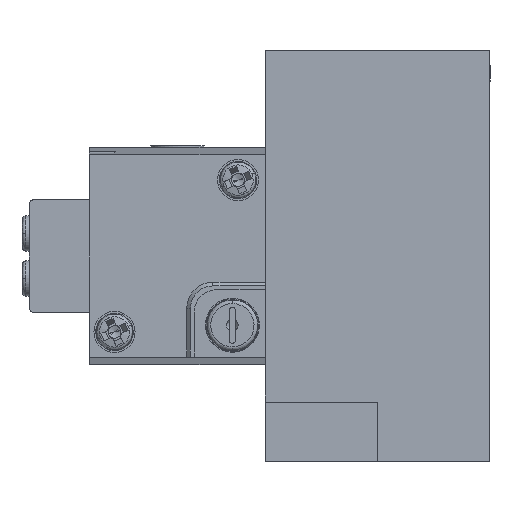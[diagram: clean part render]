
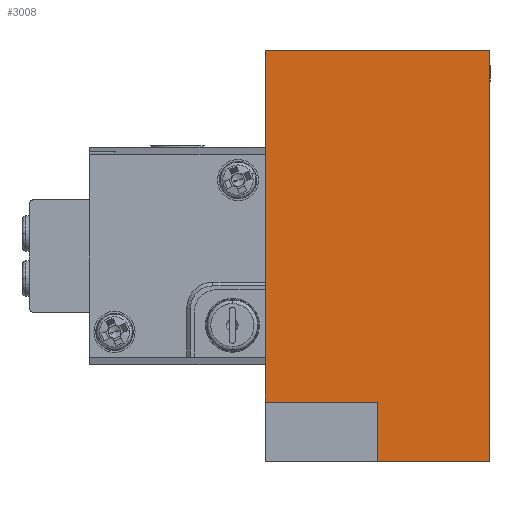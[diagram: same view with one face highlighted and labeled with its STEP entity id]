
A CAD part, left-side view. The second image highlights one B-rep face of the part: STEP entity #3008.
In plain terms, the highlighted planar face has unit normal (-1, 0, 0).
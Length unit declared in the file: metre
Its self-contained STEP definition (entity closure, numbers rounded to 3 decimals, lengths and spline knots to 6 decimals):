
#370 = VERTEX_POINT ( 'NONE', #3337 ) ;
#437 = CARTESIAN_POINT ( 'NONE',  ( -0.034, 0.015, 0.0275 ) ) ;
#989 = DIRECTION ( 'NONE',  ( 0., 1., 0. ) ) ;
#2501 = ORIENTED_EDGE ( 'NONE', *, *, #7770, .T. ) ;
#2509 = CARTESIAN_POINT ( 'NONE',  ( -0.034, 0., 0. ) ) ;
#2549 = DIRECTION ( 'NONE',  ( 0., 0., 1. ) ) ;
#2587 = CARTESIAN_POINT ( 'NONE',  ( -0.034, -0.015, 0.0275 ) ) ;
#2591 = VECTOR ( 'NONE', #989, 1. ) ;
#2835 = PLANE ( 'NONE',  #5398 ) ;
#2917 = CARTESIAN_POINT ( 'NONE',  ( -0.034, -0.015, 0.0275 ) ) ;
#3002 = DIRECTION ( 'NONE',  ( 1., 0., 0. ) ) ;
#3008 = ADVANCED_FACE ( 'NONE', ( #8273 ), #2835, .F. ) ;
#3028 = DIRECTION ( 'NONE',  ( 0., 0., -1. ) ) ;
#3223 = ORIENTED_EDGE ( 'NONE', *, *, #10858, .T. ) ;
#3337 = CARTESIAN_POINT ( 'NONE',  ( -0.034, 0., -0.0195 ) ) ;
#3467 = ORIENTED_EDGE ( 'NONE', *, *, #3519, .F. ) ;
#3519 = EDGE_CURVE ( 'NONE', #6032, #6391, #11312, .T. ) ;
#4016 = EDGE_LOOP ( 'NONE', ( #4969, #4116, #11598, #3467, #3223, #2501 ) ) ;
#4079 = LINE ( 'NONE', #9195, #6168 ) ;
#4116 = ORIENTED_EDGE ( 'NONE', *, *, #7468, .F. ) ;
#4579 = CARTESIAN_POINT ( 'NONE',  ( -0.034, 0., -0.0195 ) ) ;
#4785 = CARTESIAN_POINT ( 'NONE',  ( -0.034, 0.015, -0.0195 ) ) ;
#4968 = LINE ( 'NONE', #4579, #2591 ) ;
#4969 = ORIENTED_EDGE ( 'NONE', *, *, #7634, .F. ) ;
#5398 = AXIS2_PLACEMENT_3D ( 'NONE', #2917, #3002, #3028 ) ;
#5722 = DIRECTION ( 'NONE',  ( 0., 0., -1. ) ) ;
#5976 = CARTESIAN_POINT ( 'NONE',  ( -0.034, 0., -0.0275 ) ) ;
#6018 = DIRECTION ( 'NONE',  ( 0., 1., 0. ) ) ;
#6032 = VERTEX_POINT ( 'NONE', #2587 ) ;
#6168 = VECTOR ( 'NONE', #7292, 1. ) ;
#6280 = VECTOR ( 'NONE', #9126, 1. ) ;
#6364 = VECTOR ( 'NONE', #2549, 1. ) ;
#6391 = VERTEX_POINT ( 'NONE', #6677 ) ;
#6572 = LINE ( 'NONE', #11372, #11335 ) ;
#6677 = CARTESIAN_POINT ( 'NONE',  ( -0.034, -0.015, -0.0275 ) ) ;
#7292 = DIRECTION ( 'NONE',  ( 0., 1., 0. ) ) ;
#7360 = VERTEX_POINT ( 'NONE', #437 ) ;
#7468 = EDGE_CURVE ( 'NONE', #9766, #370, #8778, .T. ) ;
#7634 = EDGE_CURVE ( 'NONE', #370, #10024, #4968, .T. ) ;
#7770 = EDGE_CURVE ( 'NONE', #7360, #10024, #10436, .T. ) ;
#8273 = FACE_OUTER_BOUND ( 'NONE', #4016, .T. ) ;
#8778 = LINE ( 'NONE', #2509, #6364 ) ;
#8994 = CARTESIAN_POINT ( 'NONE',  ( -0.034, -0.015, 0. ) ) ;
#9126 = DIRECTION ( 'NONE',  ( 0., 0., -1. ) ) ;
#9195 = CARTESIAN_POINT ( 'NONE',  ( -0.034, 0., -0.0275 ) ) ;
#9349 = CARTESIAN_POINT ( 'NONE',  ( -0.034, 0.015, 0. ) ) ;
#9766 = VERTEX_POINT ( 'NONE', #5976 ) ;
#9904 = VECTOR ( 'NONE', #5722, 1. ) ;
#10024 = VERTEX_POINT ( 'NONE', #4785 ) ;
#10436 = LINE ( 'NONE', #9349, #9904 ) ;
#10625 = EDGE_CURVE ( 'NONE', #6391, #9766, #4079, .T. ) ;
#10858 = EDGE_CURVE ( 'NONE', #6032, #7360, #6572, .T. ) ;
#11312 = LINE ( 'NONE', #8994, #6280 ) ;
#11335 = VECTOR ( 'NONE', #6018, 1. ) ;
#11372 = CARTESIAN_POINT ( 'NONE',  ( -0.034, 0., 0.0275 ) ) ;
#11598 = ORIENTED_EDGE ( 'NONE', *, *, #10625, .F. ) ;
